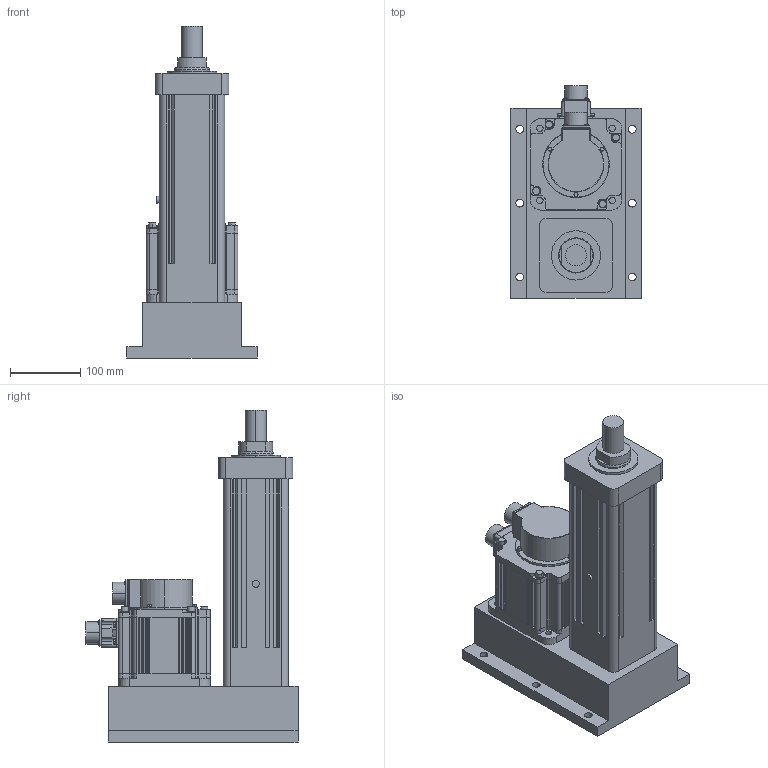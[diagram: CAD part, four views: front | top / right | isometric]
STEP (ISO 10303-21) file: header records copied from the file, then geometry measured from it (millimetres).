
FILE_DESCRIPTION (( 'STEP AP203' ), '1' );
FILE_NAME ('S4殏殿綴楊擘假蚾.STEP', '2024-05-27T05:26:47', ( '' ), ( '' ), 'SwSTEP 2.0', 'SolidWorks 2018', '' );
FILE_SCHEMA (( 'CONFIG_CONTROL_DESIGN' ));
Length unit declared in the file: millimetre
Products named in the file (3): S4殏殿綴楊擘假蚾; S4殏殿綴楊擘; ECMA-FX1308ES-130框號系列機種-0.85KW高慣量系列
Assembly tree (2 placements, depth 2):
  S4殏殿綴楊擘假蚾
    S4殏殿綴楊擘
    ECMA-FX1308ES-130框號系列機種-0.85KW高慣量系列
Bounding box: 185 x 301.44 x 472 mm (x, y, z)
Volume: 6596989.5 mm3; surface area: 620628.4 mm2
Topology: 3 solids, 15 shells, 933 faces, 2232 edges, 1386 vertices
Faces by surface type: plane 407, cylinder 357, cone 101, torus 47, sphere 20, bspline 1
Entity records: 27948 total; most frequent: CARTESIAN_POINT 5412, DIRECTION 4918, ORIENTED_EDGE 4460, EDGE_CURVE 2230, AXIS2_PLACEMENT_3D 1831, VERTEX_POINT 1386, VECTOR 1256, LINE 1256
